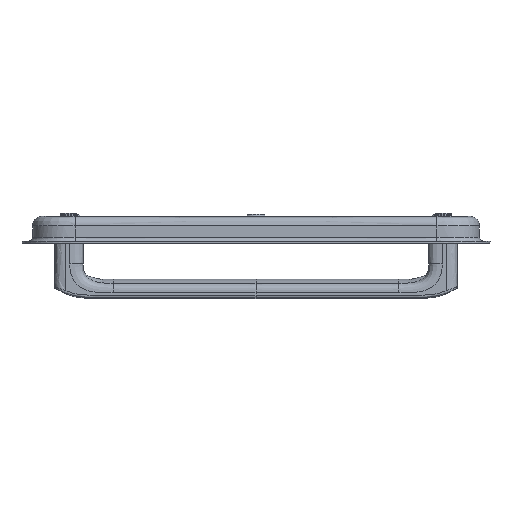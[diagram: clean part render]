
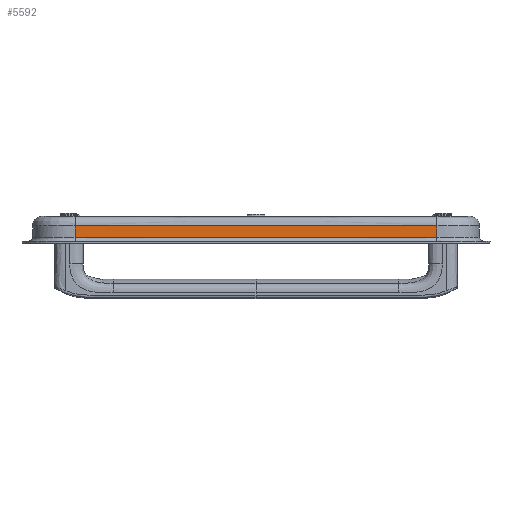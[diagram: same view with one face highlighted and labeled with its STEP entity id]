
A CAD part, left-side view. The second image highlights one B-rep face of the part: STEP entity #5592.
In plain terms, the highlighted free-form (B-spline) face has degree [2, 1] with [3, 2] control points.
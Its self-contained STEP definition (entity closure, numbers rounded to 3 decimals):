
#289=B_SPLINE_SURFACE_WITH_KNOTS('',2,1,((#18459,#18460),(#18461,#18462),
(#18463,#18464)),.UNSPECIFIED.,.F.,.F.,.F.,(3,3),(2,2),(-1.,0.),(0.,2.4),
 .UNSPECIFIED.);
#621=B_SPLINE_CURVE_WITH_KNOTS('',3,(#17533,#17534,#17535,#17536),
 .UNSPECIFIED.,.F.,.F.,(4,4),(0.,18.943),.UNSPECIFIED.);
#638=B_SPLINE_CURVE_WITH_KNOTS('',2,(#18467,#18468,#18469),
 .UNSPECIFIED.,.F.,.F.,(3,3),(0.,18.943),.UNSPECIFIED.);
#1072=FACE_OUTER_BOUND('',#1414,.T.);
#1414=EDGE_LOOP('',(#5169,#5170,#5171,#5172));
#1859=LINE('',#18470,#2282);
#1860=LINE('',#18471,#2283);
#2282=VECTOR('',#6890,10.);
#2283=VECTOR('',#6891,10.);
#2848=VERTEX_POINT('',#17375);
#2849=VERTEX_POINT('',#17532);
#2854=VERTEX_POINT('',#18465);
#2855=VERTEX_POINT('',#18466);
#3608=EDGE_CURVE('',#2849,#2848,#621,.T.);
#3635=EDGE_CURVE('',#2854,#2855,#638,.T.);
#3636=EDGE_CURVE('',#2855,#2849,#1859,.T.);
#3637=EDGE_CURVE('',#2848,#2854,#1860,.T.);
#5169=ORIENTED_EDGE('',*,*,#3635,.T.);
#5170=ORIENTED_EDGE('',*,*,#3636,.T.);
#5171=ORIENTED_EDGE('',*,*,#3608,.T.);
#5172=ORIENTED_EDGE('',*,*,#3637,.T.);
#5592=ADVANCED_FACE('',(#1072),#289,.T.);
#6890=DIRECTION('',(0.,0.,1.));
#6891=DIRECTION('',(0.,0.,-1.));
#17375=CARTESIAN_POINT('',(-72.887,95.763,-23.967));
#17532=CARTESIAN_POINT('',(-72.887,-93.668,-23.967));
#17533=CARTESIAN_POINT('Ctrl Pts',(-72.887,-93.668,
-23.967));
#17534=CARTESIAN_POINT('Ctrl Pts',(-72.887,-30.524,
-23.967));
#17535=CARTESIAN_POINT('Ctrl Pts',(-72.887,32.619,-23.967));
#17536=CARTESIAN_POINT('Ctrl Pts',(-72.887,95.763,-23.967));
#18459=CARTESIAN_POINT('Ctrl Pts',(-72.887,-93.668,
-21.967));
#18460=CARTESIAN_POINT('Ctrl Pts',(-72.887,-93.668,
-45.967));
#18461=CARTESIAN_POINT('Ctrl Pts',(-72.887,1.047,-21.967));
#18462=CARTESIAN_POINT('Ctrl Pts',(-72.887,1.047,-45.967));
#18463=CARTESIAN_POINT('Ctrl Pts',(-72.887,95.763,-21.967));
#18464=CARTESIAN_POINT('Ctrl Pts',(-72.887,95.763,-45.967));
#18465=CARTESIAN_POINT('',(-72.887,95.763,-29.967));
#18466=CARTESIAN_POINT('',(-72.887,-93.668,-29.967));
#18467=CARTESIAN_POINT('Ctrl Pts',(-72.887,95.763,-29.967));
#18468=CARTESIAN_POINT('Ctrl Pts',(-72.887,1.047,-29.967));
#18469=CARTESIAN_POINT('Ctrl Pts',(-72.887,-93.668,
-29.967));
#18470=CARTESIAN_POINT('',(-72.887,-93.668,-36.967));
#18471=CARTESIAN_POINT('',(-72.887,95.763,-23.967));
